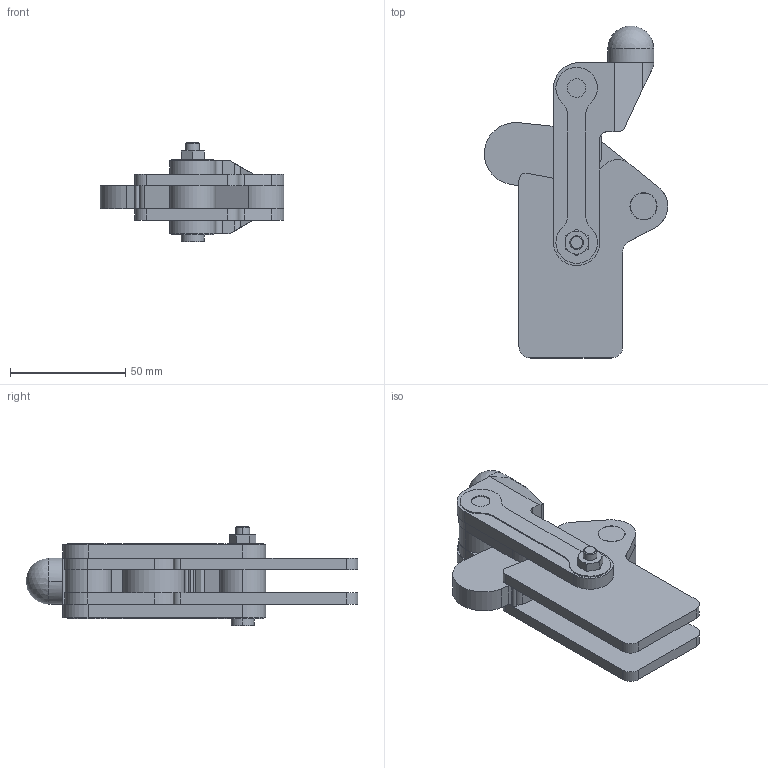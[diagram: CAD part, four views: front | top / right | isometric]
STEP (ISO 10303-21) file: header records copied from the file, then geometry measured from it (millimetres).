
FILE_DESCRIPTION( ( '' ), '1' );
FILE_NAME( '//partserver002.servicenet/client_exchange/iodir/jobs/output/wkb5782701_no4/STEP/va700t_2_14a.stp', '2006-11-29T10:39:48', ( '' ), ( '' ), ' ', ' ', ' ' );
FILE_SCHEMA( ( 'automotive_design' ) );
Length unit declared in the file: millimetre
Products named in the file (4): 1; 2; 3; 4
Bounding box: 79.55 x 143.93 x 43 mm (x, y, z)
Volume: 114797.3 mm3; surface area: 45823.3 mm2
Topology: 4 solids, 5 shells, 195 faces, 475 edges, 310 vertices
Faces by surface type: cylinder 101, plane 79, cone 14, sphere 1
Entity records: 11349 total; most frequent: DIRECTION 1067, CARTESIAN_POINT 1030, STYLED_ITEM 982, PRESENTATION_STYLE_ASSIGNMENT 982, COLOUR_RGB 982, ORIENTED_EDGE 946, EDGE_CURVE 473, CURVE_STYLE 473
